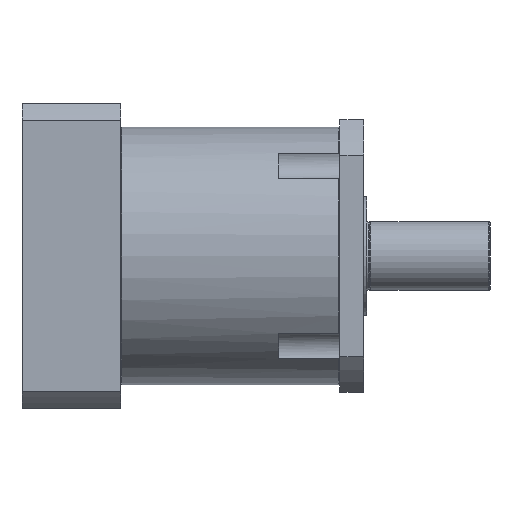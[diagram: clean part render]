
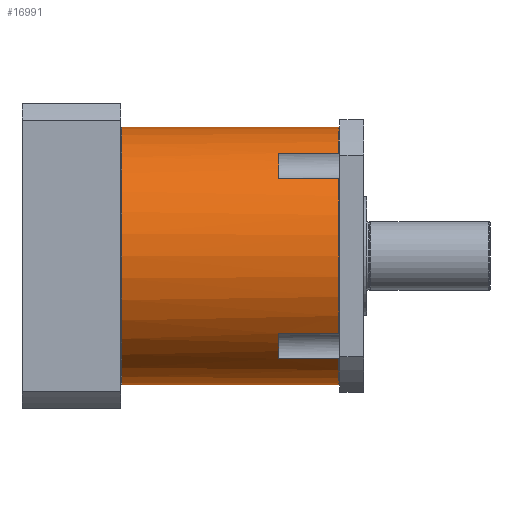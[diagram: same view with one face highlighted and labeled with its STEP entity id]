
A CAD part, front view. The second image highlights one B-rep face of the part: STEP entity #16991.
In plain terms, the highlighted cylindrical face has radius 60 mm (diameter 120 mm), a partial arc.
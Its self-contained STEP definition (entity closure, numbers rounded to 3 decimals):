
#439 = DIRECTION ( 'NONE',  ( 0., 0., -1. ) ) ;
#484 = CARTESIAN_POINT ( 'NONE',  ( 101.5, -36.137, 47.897 ) ) ;
#961 = CARTESIAN_POINT ( 'NONE',  ( 52.368, 0., 0. ) ) ;
#1072 = CARTESIAN_POINT ( 'NONE',  ( 101.5, 0., 0. ) ) ;
#1122 = CYLINDRICAL_SURFACE ( 'NONE', #9332, 60. ) ;
#2432 = EDGE_CURVE ( 'NONE', #26300, #5565, #7695, .T. ) ;
#2634 = CARTESIAN_POINT ( 'NONE',  ( 101.5, 0., 0. ) ) ;
#2872 = CARTESIAN_POINT ( 'NONE',  ( 101.5, 0., 0. ) ) ;
#2939 = VERTEX_POINT ( 'NONE', #484 ) ;
#3524 = CARTESIAN_POINT ( 'NONE',  ( 101.5, -47.897, 36.137 ) ) ;
#3975 = ORIENTED_EDGE ( 'NONE', *, *, #19888, .T. ) ;
#4099 = ORIENTED_EDGE ( 'NONE', *, *, #8586, .T. ) ;
#4116 = DIRECTION ( 'NONE',  ( 1., 0., 0. ) ) ;
#4256 = DIRECTION ( 'NONE',  ( -1., 0., 0. ) ) ;
#4415 = CARTESIAN_POINT ( 'NONE',  ( 87.75, -47.897, 36.137 ) ) ;
#4474 = VECTOR ( 'NONE', #19924, 1000. ) ;
#4951 = EDGE_CURVE ( 'NONE', #28460, #28151, #17157, .T. ) ;
#5565 = VERTEX_POINT ( 'NONE', #23796 ) ;
#5729 = CARTESIAN_POINT ( 'NONE',  ( 52.368, 0., 60. ) ) ;
#5733 = EDGE_CURVE ( 'NONE', #2939, #9768, #22835, .T. ) ;
#6295 = AXIS2_PLACEMENT_3D ( 'NONE', #21476, #15999, #14211 ) ;
#6512 = EDGE_CURVE ( 'NONE', #19397, #10466, #13546, .T. ) ;
#6908 = CARTESIAN_POINT ( 'NONE',  ( 73.5, -47.897, 36.137 ) ) ;
#7171 = CARTESIAN_POINT ( 'NONE',  ( 52.368, 0., -60. ) ) ;
#7663 = DIRECTION ( 'NONE',  ( -1., 0., 0. ) ) ;
#7695 = CIRCLE ( 'NONE', #13357, 60. ) ;
#7720 = DIRECTION ( 'NONE',  ( 1., 0., 0. ) ) ;
#8176 = LINE ( 'NONE', #5729, #27245 ) ;
#8586 = EDGE_CURVE ( 'NONE', #19397, #2939, #20642, .T. ) ;
#8925 = CARTESIAN_POINT ( 'NONE',  ( 101.5, -36.137, -47.897 ) ) ;
#9332 = AXIS2_PLACEMENT_3D ( 'NONE', #961, #13402, #23234 ) ;
#9768 = VERTEX_POINT ( 'NONE', #15120 ) ;
#10466 = VERTEX_POINT ( 'NONE', #6908 ) ;
#12241 = CIRCLE ( 'NONE', #15335, 60. ) ;
#12298 = ORIENTED_EDGE ( 'NONE', *, *, #2432, .T. ) ;
#12735 = CARTESIAN_POINT ( 'NONE',  ( 73.5, -36.137, 47.897 ) ) ;
#12883 = DIRECTION ( 'NONE',  ( -1., 0., 0. ) ) ;
#13357 = AXIS2_PLACEMENT_3D ( 'NONE', #29958, #7720, #439 ) ;
#13402 = DIRECTION ( 'NONE',  ( 1., 0., 0. ) ) ;
#13546 = CIRCLE ( 'NONE', #25894, 60. ) ;
#13667 = CARTESIAN_POINT ( 'NONE',  ( 73.5, 0., 0. ) ) ;
#13954 = ORIENTED_EDGE ( 'NONE', *, *, #24067, .T. ) ;
#14211 = DIRECTION ( 'NONE',  ( 0., 0., -1. ) ) ;
#14416 = EDGE_CURVE ( 'NONE', #26300, #9768, #8176, .T. ) ;
#14611 = ORIENTED_EDGE ( 'NONE', *, *, #26825, .T. ) ;
#15120 = CARTESIAN_POINT ( 'NONE',  ( 101.5, 0., 60. ) ) ;
#15314 = DIRECTION ( 'NONE',  ( 0., 0., 1. ) ) ;
#15335 = AXIS2_PLACEMENT_3D ( 'NONE', #1072, #20795, #18699 ) ;
#15785 = DIRECTION ( 'NONE',  ( 1., 0., 0. ) ) ;
#15999 = DIRECTION ( 'NONE',  ( 1., 0., 0. ) ) ;
#16213 = ORIENTED_EDGE ( 'NONE', *, *, #14416, .F. ) ;
#16365 = VERTEX_POINT ( 'NONE', #8925 ) ;
#16631 = ORIENTED_EDGE ( 'NONE', *, *, #26874, .T. ) ;
#16991 = ADVANCED_FACE ( 'NONE', ( #30648 ), #1122, .T. ) ;
#17157 = CIRCLE ( 'NONE', #6295, 60. ) ;
#18082 = CARTESIAN_POINT ( 'NONE',  ( 87.75, -36.137, 47.897 ) ) ;
#18089 = VERTEX_POINT ( 'NONE', #31452 ) ;
#18310 = CARTESIAN_POINT ( 'NONE',  ( 73.5, -36.137, -47.897 ) ) ;
#18699 = DIRECTION ( 'NONE',  ( 0., 0., 1. ) ) ;
#18756 = AXIS2_PLACEMENT_3D ( 'NONE', #2634, #7663, #27349 ) ;
#19397 = VERTEX_POINT ( 'NONE', #12735 ) ;
#19692 = DIRECTION ( 'NONE',  ( 1., 0., 0. ) ) ;
#19783 = VERTEX_POINT ( 'NONE', #3524 ) ;
#19888 = EDGE_CURVE ( 'NONE', #28460, #18089, #28242, .T. ) ;
#19924 = DIRECTION ( 'NONE',  ( -1., 0., 0. ) ) ;
#20087 = CARTESIAN_POINT ( 'NONE',  ( 87.75, -36.137, -47.897 ) ) ;
#20642 = LINE ( 'NONE', #18082, #21795 ) ;
#20795 = DIRECTION ( 'NONE',  ( -1., 0., 0. ) ) ;
#21476 = CARTESIAN_POINT ( 'NONE',  ( 73.5, 0., 0. ) ) ;
#21795 = VECTOR ( 'NONE', #15785, 1000. ) ;
#22363 = VECTOR ( 'NONE', #31694, 1000. ) ;
#22506 = CIRCLE ( 'NONE', #31269, 60. ) ;
#22620 = ORIENTED_EDGE ( 'NONE', *, *, #23661, .T. ) ;
#22835 = CIRCLE ( 'NONE', #18756, 60. ) ;
#23010 = CARTESIAN_POINT ( 'NONE',  ( 73.5, -47.897, -36.137 ) ) ;
#23234 = DIRECTION ( 'NONE',  ( 0., 0., -1. ) ) ;
#23505 = DIRECTION ( 'NONE',  ( 0., 0., -1. ) ) ;
#23661 = EDGE_CURVE ( 'NONE', #18089, #19783, #12241, .T. ) ;
#23796 = CARTESIAN_POINT ( 'NONE',  ( 0.5, 0., -60. ) ) ;
#24067 = EDGE_CURVE ( 'NONE', #16365, #28151, #29880, .T. ) ;
#24438 = ORIENTED_EDGE ( 'NONE', *, *, #6512, .F. ) ;
#24799 = ORIENTED_EDGE ( 'NONE', *, *, #4951, .F. ) ;
#25422 = DIRECTION ( 'NONE',  ( 1., 0., 0. ) ) ;
#25894 = AXIS2_PLACEMENT_3D ( 'NONE', #13667, #4116, #23505 ) ;
#26300 = VERTEX_POINT ( 'NONE', #26780 ) ;
#26381 = LINE ( 'NONE', #4415, #30572 ) ;
#26780 = CARTESIAN_POINT ( 'NONE',  ( 0.5, 0., 60. ) ) ;
#26825 = EDGE_CURVE ( 'NONE', #19783, #10466, #26381, .T. ) ;
#26861 = LINE ( 'NONE', #7171, #22363 ) ;
#26874 = EDGE_CURVE ( 'NONE', #5565, #29114, #26861, .T. ) ;
#27245 = VECTOR ( 'NONE', #25422, 1000. ) ;
#27349 = DIRECTION ( 'NONE',  ( 0., 0., 1. ) ) ;
#27528 = EDGE_LOOP ( 'NONE', ( #16213, #12298, #16631, #29730, #13954, #24799, #3975, #22620, #14611, #24438, #4099, #30061 ) ) ;
#28151 = VERTEX_POINT ( 'NONE', #18310 ) ;
#28242 = LINE ( 'NONE', #29180, #28554 ) ;
#28460 = VERTEX_POINT ( 'NONE', #23010 ) ;
#28554 = VECTOR ( 'NONE', #19692, 1000. ) ;
#29114 = VERTEX_POINT ( 'NONE', #29711 ) ;
#29180 = CARTESIAN_POINT ( 'NONE',  ( 87.75, -47.897, -36.137 ) ) ;
#29711 = CARTESIAN_POINT ( 'NONE',  ( 101.5, 0., -60. ) ) ;
#29730 = ORIENTED_EDGE ( 'NONE', *, *, #30550, .T. ) ;
#29880 = LINE ( 'NONE', #20087, #4474 ) ;
#29958 = CARTESIAN_POINT ( 'NONE',  ( 0.5, 0., 0. ) ) ;
#30061 = ORIENTED_EDGE ( 'NONE', *, *, #5733, .T. ) ;
#30550 = EDGE_CURVE ( 'NONE', #29114, #16365, #22506, .T. ) ;
#30572 = VECTOR ( 'NONE', #4256, 1000. ) ;
#30648 = FACE_OUTER_BOUND ( 'NONE', #27528, .T. ) ;
#31269 = AXIS2_PLACEMENT_3D ( 'NONE', #2872, #12883, #15314 ) ;
#31452 = CARTESIAN_POINT ( 'NONE',  ( 101.5, -47.897, -36.137 ) ) ;
#31694 = DIRECTION ( 'NONE',  ( 1., 0., 0. ) ) ;
